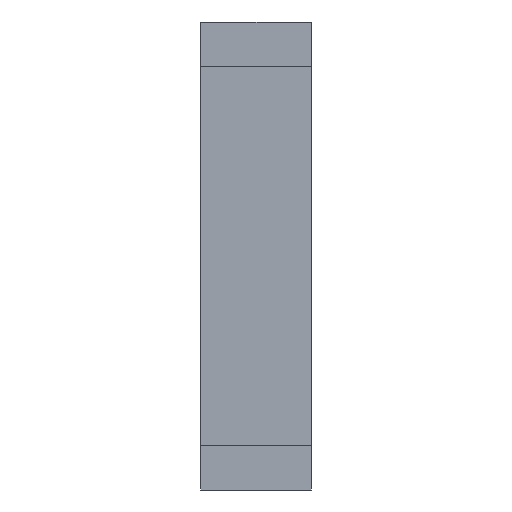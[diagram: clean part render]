
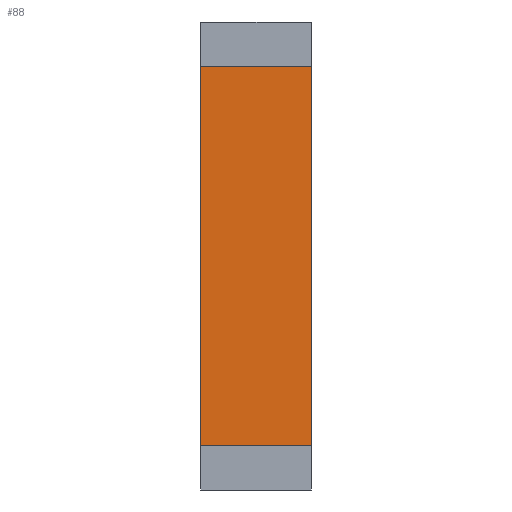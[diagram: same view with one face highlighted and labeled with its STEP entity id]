
A CAD part, left-side view. The second image highlights one B-rep face of the part: STEP entity #88.
In plain terms, the highlighted planar face has unit normal (-1, 0, 0).
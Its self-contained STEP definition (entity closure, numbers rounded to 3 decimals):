
#62 = VERTEX_POINT('',#63);
#63 = CARTESIAN_POINT('',(18.,-23.4,199.95));
#71 = VERTEX_POINT('',#72);
#72 = CARTESIAN_POINT('',(18.,-25.9,199.95));
#78 = EDGE_CURVE('',#71,#62,#79,.T.);
#79 = LINE('',#80,#81);
#80 = CARTESIAN_POINT('',(18.,-25.9,199.95));
#81 = VECTOR('',#82,1.);
#82 = DIRECTION('',(0.,1.,0.));
#88 = ADVANCED_FACE('',(#89),#114,.F.);
#89 = FACE_BOUND('',#90,.F.);
#90 = EDGE_LOOP('',(#91,#99,#107,#113));
#91 = ORIENTED_EDGE('',*,*,#92,.F.);
#92 = EDGE_CURVE('',#93,#71,#95,.T.);
#93 = VERTEX_POINT('',#94);
#94 = CARTESIAN_POINT('',(18.,-25.9,191.35));
#95 = LINE('',#96,#97);
#96 = CARTESIAN_POINT('',(18.,-25.9,190.35));
#97 = VECTOR('',#98,1.);
#98 = DIRECTION('',(0.,0.,1.));
#99 = ORIENTED_EDGE('',*,*,#100,.T.);
#100 = EDGE_CURVE('',#93,#101,#103,.T.);
#101 = VERTEX_POINT('',#102);
#102 = CARTESIAN_POINT('',(18.,-23.4,191.35));
#103 = LINE('',#104,#105);
#104 = CARTESIAN_POINT('',(18.,-25.9,191.35));
#105 = VECTOR('',#106,1.);
#106 = DIRECTION('',(0.,1.,0.));
#107 = ORIENTED_EDGE('',*,*,#108,.T.);
#108 = EDGE_CURVE('',#101,#62,#109,.T.);
#109 = LINE('',#110,#111);
#110 = CARTESIAN_POINT('',(18.,-23.4,190.35));
#111 = VECTOR('',#112,1.);
#112 = DIRECTION('',(0.,0.,1.));
#113 = ORIENTED_EDGE('',*,*,#78,.F.);
#114 = PLANE('',#115);
#115 = AXIS2_PLACEMENT_3D('',#116,#117,#118);
#116 = CARTESIAN_POINT('',(18.,-25.9,190.35));
#117 = DIRECTION('',(1.,0.,0.));
#118 = DIRECTION('',(0.,0.,1.));
